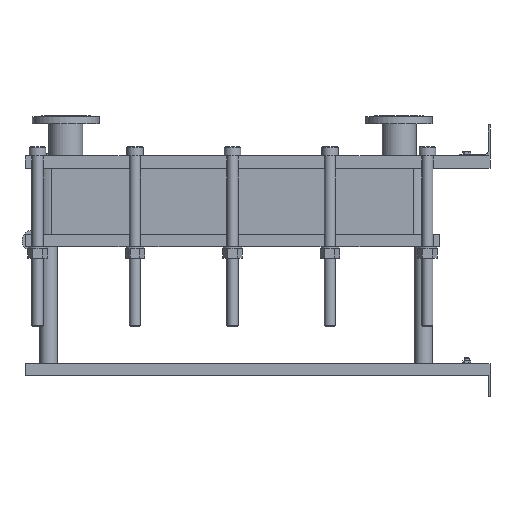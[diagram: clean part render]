
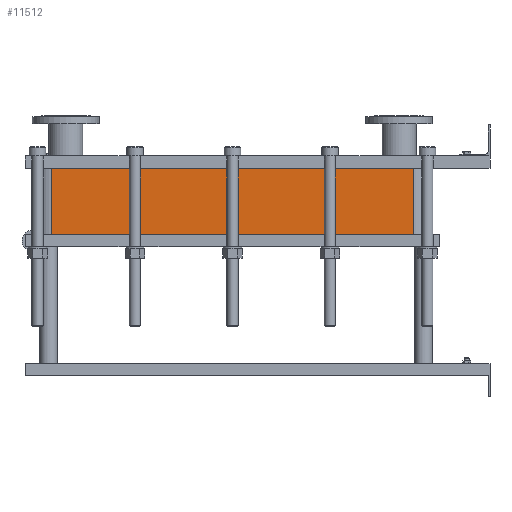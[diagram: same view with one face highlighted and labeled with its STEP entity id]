
A CAD part, left-side view. The second image highlights one B-rep face of the part: STEP entity #11512.
In plain terms, the highlighted planar face has unit normal (-1, 0, 0).
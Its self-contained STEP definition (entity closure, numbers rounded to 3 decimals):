
#1129=LINE('',#23232,#2102);
#1130=LINE('',#23236,#2103);
#1131=LINE('',#23238,#2104);
#1132=LINE('',#23239,#2105);
#2102=VECTOR('',#15887,10.);
#2103=VECTOR('',#15892,10.);
#2104=VECTOR('',#15893,10.);
#2105=VECTOR('',#15894,10.);
#3267=FACE_OUTER_BOUND('',#4093,.T.);
#4093=EDGE_LOOP('',(#10103,#10104,#10105,#10106));
#5642=VERTEX_POINT('',#23229);
#5643=VERTEX_POINT('',#23231);
#5644=VERTEX_POINT('',#23235);
#5645=VERTEX_POINT('',#23237);
#7159=EDGE_CURVE('',#5643,#5642,#1129,.T.);
#7161=EDGE_CURVE('',#5642,#5644,#1130,.T.);
#7162=EDGE_CURVE('',#5645,#5644,#1131,.T.);
#7163=EDGE_CURVE('',#5645,#5643,#1132,.T.);
#10103=ORIENTED_EDGE('',*,*,#7161,.T.);
#10104=ORIENTED_EDGE('',*,*,#7162,.F.);
#10105=ORIENTED_EDGE('',*,*,#7163,.T.);
#10106=ORIENTED_EDGE('',*,*,#7159,.T.);
#10857=PLANE('',#12751);
#11512=ADVANCED_FACE('',(#3267),#10857,.T.);
#12751=AXIS2_PLACEMENT_3D('',#23234,#15890,#15891);
#15887=DIRECTION('',(0.,0.,-1.));
#15890=DIRECTION('center_axis',(-1.,0.,0.));
#15891=DIRECTION('ref_axis',(0.,1.,0.));
#15892=DIRECTION('',(0.,-1.,0.));
#15893=DIRECTION('',(0.,0.,-1.));
#15894=DIRECTION('',(0.,1.,0.));
#23229=CARTESIAN_POINT('',(-200.,1414.,-213.9));
#23231=CARTESIAN_POINT('',(-200.,1414.,0.));
#23232=CARTESIAN_POINT('',(-200.,1414.,0.));
#23234=CARTESIAN_POINT('Origin',(-200.,248.,0.));
#23235=CARTESIAN_POINT('',(-200.,248.,-213.9));
#23236=CARTESIAN_POINT('',(-200.,539.5,-213.9));
#23237=CARTESIAN_POINT('',(-200.,248.,0.));
#23238=CARTESIAN_POINT('',(-200.,248.,0.));
#23239=CARTESIAN_POINT('',(-200.,248.,0.));
